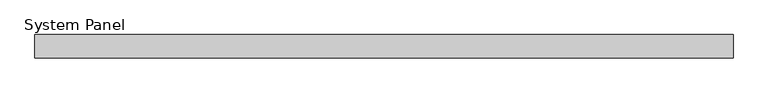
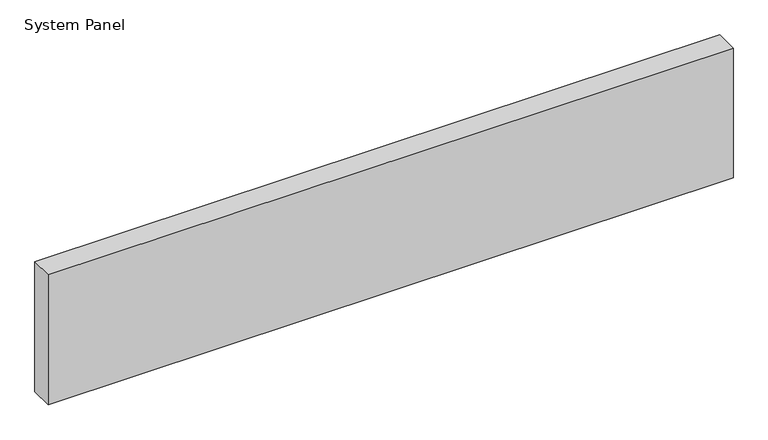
"""IFC4 building model written with IfcOpenShell, lengths in millimetres: plate geometry, System Panel : Equitilt 200mm Horizontal - Plain RHEA - EPS-FR."""

from ifc_helpers import new_model, si_unit, origin, origin_with_axes, place, context, project, spatial, polyline, outline, extrude, source, transform, mapped, element, save


def system_panel_2d42fb1b(model_context):
    return source(origin(), model_context, "Body", "SweptSolid", [
        extrude(outline(polyline([(2995.0, 0.0), (-2995.0, 0.0), (-2995.0, 200.0), (2995.0, 200.0), (2995.0, 0.0)])), origin_with_axes(), (0.0, 0.0, 1.0), 1200.0),
    ])


if __name__ == "__main__":
    model = new_model("IFC4")
    model_context = context("Model", 3, world=origin())
    ifc_project = project(units=[si_unit("LENGTHUNIT", "METRE", prefix="MILLI")], contexts=[model_context])
    site = spatial("IfcSite", under=ifc_project)
    building = spatial("IfcBuilding", under=site)
    placement = place(None, origin())
    system_panel_shape = system_panel_2d42fb1b(model_context)
    element("IfcPlate", 1, ObjectType="System Panel : Equitilt 200mm Horizontal - Plain RHEA - EPS-FR", at=placement, inside=building, context=model_context, shape_type="MappedRepresentation", body=[
        mapped(system_panel_shape, transform((0.0, 0.0, 0.0), x_axis=(1.0, 0.0, 0.0), y_axis=(0.0, 1.0, 0.0), z_axis=(0.0, 0.0, 1.0))),
    ])
    save(model, "model.ifc")
